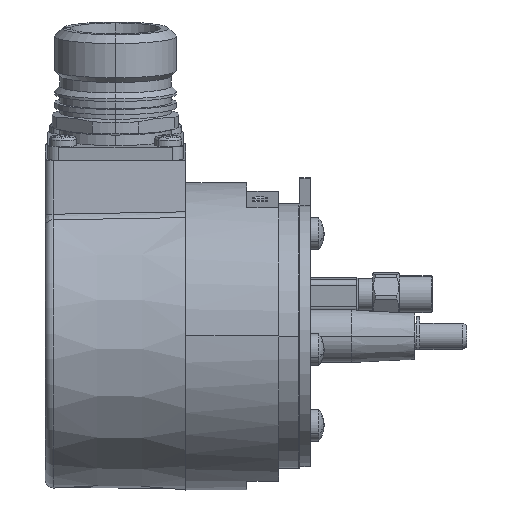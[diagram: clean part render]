
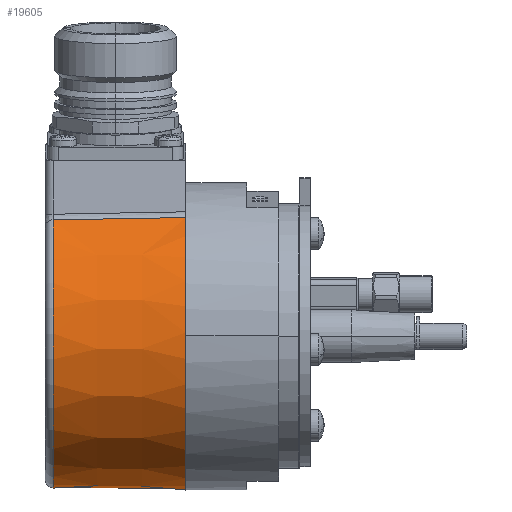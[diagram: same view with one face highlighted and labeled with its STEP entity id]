
A CAD part, top view. The second image highlights one B-rep face of the part: STEP entity #19605.
In plain terms, the highlighted conical face has half-angle 0.75 degrees and reference radius 29 mm.
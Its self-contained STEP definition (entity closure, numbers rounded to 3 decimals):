
#18115 = CARTESIAN_POINT ( 'NONE',  ( -17.52, -28.459, -3.494 ) ) ;
#18153 = CARTESIAN_POINT ( 'NONE',  ( -17.52, 21.923, 18.479 ) ) ;
#18154 = DIRECTION ( 'NONE',  ( 0., 0.993, 0.122 ) ) ;
#18155 = DIRECTION ( 'NONE',  ( 1., 0., 0. ) ) ;
#18156 = CARTESIAN_POINT ( 'NONE',  ( -17.52, 0., 0. ) ) ;
#18157 = AXIS2_PLACEMENT_3D ( 'NONE', #18156, #18155, #18154 ) ;
#18158 = CIRCLE ( 'NONE', #18157, 28.672 ) ;
#18194 = CARTESIAN_POINT ( 'NONE',  ( 7.5, -28.784, -3.534 ) ) ;
#18195 = DIRECTION ( 'NONE',  ( 1., -0.013, -0.002 ) ) ;
#18196 = VECTOR ( 'NONE', #18195, 1000. ) ;
#18197 = CARTESIAN_POINT ( 'NONE',  ( 7.5, -28.784, -3.534 ) ) ;
#18198 = LINE ( 'NONE', #18197, #18196 ) ;
#18199 = CARTESIAN_POINT ( 'NONE',  ( 7.5, 22.36, 18.467 ) ) ;
#18200 = DIRECTION ( 'NONE',  ( 0., 0.993, 0.122 ) ) ;
#18201 = DIRECTION ( 'NONE',  ( -1., 0., 0. ) ) ;
#18202 = CARTESIAN_POINT ( 'NONE',  ( 7.5, 0., 0. ) ) ;
#18203 = AXIS2_PLACEMENT_3D ( 'NONE', #18202, #18201, #18200 ) ;
#18204 = CIRCLE ( 'NONE', #18203, 29. ) ;
#18429 = B_SPLINE_CURVE_WITH_KNOTS ( 'NONE', 3,
 ( #18476, #18475, #18474, #18473, #18472, #18471, #18470, #18469, #18468, #18467 ),
 .UNSPECIFIED., .F., .F.,
 ( 4, 3, 3, 4 ),
 ( 0., 0.003, 0.015, 0.025 ),
 .UNSPECIFIED. ) ;
#18467 = CARTESIAN_POINT ( 'NONE',  ( -17.52, 21.923, 18.479 ) ) ;
#18468 = CARTESIAN_POINT ( 'NONE',  ( -14.179, 21.982, 18.477 ) ) ;
#18469 = CARTESIAN_POINT ( 'NONE',  ( -10.838, 22.04, 18.476 ) ) ;
#18470 = CARTESIAN_POINT ( 'NONE',  ( -7.498, 22.099, 18.474 ) ) ;
#18471 = CARTESIAN_POINT ( 'NONE',  ( -3.498, 22.169, 18.472 ) ) ;
#18472 = CARTESIAN_POINT ( 'NONE',  ( 0.501, 22.238, 18.47 ) ) ;
#18473 = CARTESIAN_POINT ( 'NONE',  ( 4.5, 22.308, 18.469 ) ) ;
#18474 = CARTESIAN_POINT ( 'NONE',  ( 5.5, 22.325, 18.468 ) ) ;
#18475 = CARTESIAN_POINT ( 'NONE',  ( 6.5, 22.343, 18.468 ) ) ;
#18476 = CARTESIAN_POINT ( 'NONE',  ( 7.5, 22.36, 18.467 ) ) ;
#18483 = DIRECTION ( 'NONE',  ( 0., -0.993, -0.122 ) ) ;
#18484 = DIRECTION ( 'NONE',  ( 1., 0., 0. ) ) ;
#18485 = CARTESIAN_POINT ( 'NONE',  ( 7.5, 0., 0. ) ) ;
#18486 = AXIS2_PLACEMENT_3D ( 'NONE', #18485, #18484, #18483 ) ;
#18487 = CONICAL_SURFACE ( 'NONE', #18486, 29., 0.013 ) ;
#18502 = FACE_OUTER_BOUND ( 'NONE', #19607, .T. ) ;
#19497 = VERTEX_POINT ( 'NONE', #18115 ) ;
#19511 = EDGE_CURVE ( 'NONE', #19512, #19497, #18158, .T. ) ;
#19512 = VERTEX_POINT ( 'NONE', #18153 ) ;
#19522 = ORIENTED_EDGE ( 'NONE', *, *, #19531, .T. ) ;
#19523 = EDGE_CURVE ( 'NONE', #19534, #19524, #18204, .T. ) ;
#19524 = VERTEX_POINT ( 'NONE', #18199 ) ;
#19527 = ORIENTED_EDGE ( 'NONE', *, *, #19511, .T. ) ;
#19529 = ORIENTED_EDGE ( 'NONE', *, *, #19598, .T. ) ;
#19531 = EDGE_CURVE ( 'NONE', #19497, #19534, #18198, .T. ) ;
#19534 = VERTEX_POINT ( 'NONE', #18194 ) ;
#19598 = EDGE_CURVE ( 'NONE', #19524, #19512, #18429, .T. ) ;
#19601 = ORIENTED_EDGE ( 'NONE', *, *, #19523, .T. ) ;
#19605 = ADVANCED_FACE ( 'NONE', ( #18502 ), #18487, .T. ) ;
#19607 = EDGE_LOOP ( 'NONE', ( #19527, #19522, #19601, #19529 ) ) ;
